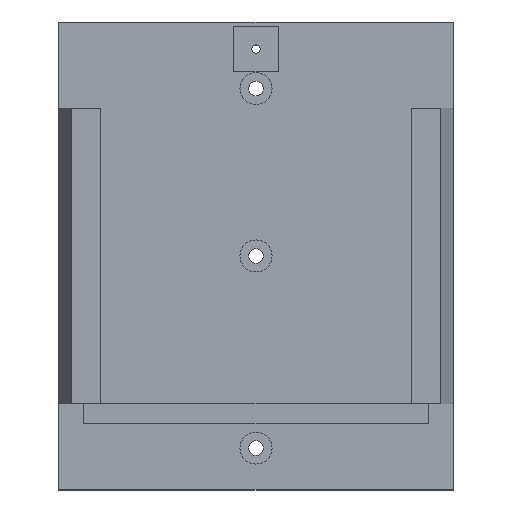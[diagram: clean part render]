
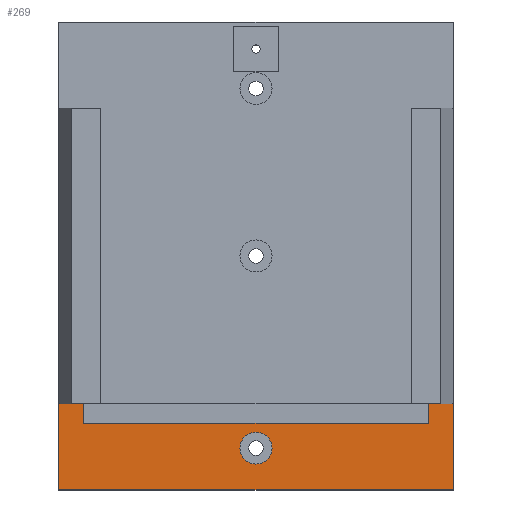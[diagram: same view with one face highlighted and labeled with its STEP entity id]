
A CAD part, top view. The second image highlights one B-rep face of the part: STEP entity #269.
In plain terms, the highlighted planar face has unit normal (0, 0, 1).
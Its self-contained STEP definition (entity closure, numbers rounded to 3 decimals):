
#24 = VERTEX_POINT('',#25);
#25 = CARTESIAN_POINT('',(-80.,-95.,-18.));
#32 = PLANE('',#33);
#33 = AXIS2_PLACEMENT_3D('',#34,#35,#36);
#34 = CARTESIAN_POINT('',(-80.,-95.,-30.));
#35 = DIRECTION('',(1.,0.,0.));
#36 = DIRECTION('',(0.,0.,1.));
#44 = PLANE('',#45);
#45 = AXIS2_PLACEMENT_3D('',#46,#47,#48);
#46 = CARTESIAN_POINT('',(-80.,-95.,-30.));
#47 = DIRECTION('',(0.,1.,0.));
#48 = DIRECTION('',(0.,0.,1.));
#141 = VERTEX_POINT('',#142);
#142 = CARTESIAN_POINT('',(-80.,-60.,-18.));
#168 = EDGE_CURVE('',#24,#141,#169,.T.);
#169 = SURFACE_CURVE('',#170,(#174,#181),.PCURVE_S1.);
#170 = LINE('',#171,#172);
#171 = CARTESIAN_POINT('',(-80.,-95.,-18.));
#172 = VECTOR('',#173,1.);
#173 = DIRECTION('',(0.,1.,0.));
#174 = PCURVE('',#32,#175);
#175 = DEFINITIONAL_REPRESENTATION('',(#176),#180);
#176 = LINE('',#177,#178);
#177 = CARTESIAN_POINT('',(12.,0.));
#178 = VECTOR('',#179,1.);
#179 = DIRECTION('',(0.,-1.));
#180 = ( GEOMETRIC_REPRESENTATION_CONTEXT(2) 
PARAMETRIC_REPRESENTATION_CONTEXT() REPRESENTATION_CONTEXT('2D SPACE',''
  ) );
#181 = PCURVE('',#182,#187);
#182 = PLANE('',#183);
#183 = AXIS2_PLACEMENT_3D('',#184,#185,#186);
#184 = CARTESIAN_POINT('',(-80.,-95.,-18.));
#185 = DIRECTION('',(0.,0.,1.));
#186 = DIRECTION('',(1.,0.,0.));
#187 = DEFINITIONAL_REPRESENTATION('',(#188),#192);
#188 = LINE('',#189,#190);
#189 = CARTESIAN_POINT('',(0.,0.));
#190 = VECTOR('',#191,1.);
#191 = DIRECTION('',(0.,1.));
#192 = ( GEOMETRIC_REPRESENTATION_CONTEXT(2) 
PARAMETRIC_REPRESENTATION_CONTEXT() REPRESENTATION_CONTEXT('2D SPACE',''
  ) );
#221 = EDGE_CURVE('',#24,#222,#224,.T.);
#222 = VERTEX_POINT('',#223);
#223 = CARTESIAN_POINT('',(80.,-95.,-18.));
#224 = SURFACE_CURVE('',#225,(#229,#236),.PCURVE_S1.);
#225 = LINE('',#226,#227);
#226 = CARTESIAN_POINT('',(-80.,-95.,-18.));
#227 = VECTOR('',#228,1.);
#228 = DIRECTION('',(1.,0.,0.));
#229 = PCURVE('',#44,#230);
#230 = DEFINITIONAL_REPRESENTATION('',(#231),#235);
#231 = LINE('',#232,#233);
#232 = CARTESIAN_POINT('',(12.,0.));
#233 = VECTOR('',#234,1.);
#234 = DIRECTION('',(0.,1.));
#235 = ( GEOMETRIC_REPRESENTATION_CONTEXT(2) 
PARAMETRIC_REPRESENTATION_CONTEXT() REPRESENTATION_CONTEXT('2D SPACE',''
  ) );
#236 = PCURVE('',#182,#237);
#237 = DEFINITIONAL_REPRESENTATION('',(#238),#242);
#238 = LINE('',#239,#240);
#239 = CARTESIAN_POINT('',(0.,0.));
#240 = VECTOR('',#241,1.);
#241 = DIRECTION('',(1.,0.));
#242 = ( GEOMETRIC_REPRESENTATION_CONTEXT(2) 
PARAMETRIC_REPRESENTATION_CONTEXT() REPRESENTATION_CONTEXT('2D SPACE',''
  ) );
#258 = PLANE('',#259);
#259 = AXIS2_PLACEMENT_3D('',#260,#261,#262);
#260 = CARTESIAN_POINT('',(80.,-95.,-30.));
#261 = DIRECTION('',(1.,0.,0.));
#262 = DIRECTION('',(0.,0.,1.));
#269 = ADVANCED_FACE('',(#270,#435),#182,.T.);
#270 = FACE_BOUND('',#271,.T.);
#271 = EDGE_LOOP('',(#272,#273,#274,#297,#325,#353,#381,#409));
#272 = ORIENTED_EDGE('',*,*,#168,.F.);
#273 = ORIENTED_EDGE('',*,*,#221,.T.);
#274 = ORIENTED_EDGE('',*,*,#275,.T.);
#275 = EDGE_CURVE('',#222,#276,#278,.T.);
#276 = VERTEX_POINT('',#277);
#277 = CARTESIAN_POINT('',(80.,-60.,-18.));
#278 = SURFACE_CURVE('',#279,(#283,#290),.PCURVE_S1.);
#279 = LINE('',#280,#281);
#280 = CARTESIAN_POINT('',(80.,-95.,-18.));
#281 = VECTOR('',#282,1.);
#282 = DIRECTION('',(0.,1.,0.));
#283 = PCURVE('',#182,#284);
#284 = DEFINITIONAL_REPRESENTATION('',(#285),#289);
#285 = LINE('',#286,#287);
#286 = CARTESIAN_POINT('',(160.,0.));
#287 = VECTOR('',#288,1.);
#288 = DIRECTION('',(0.,1.));
#289 = ( GEOMETRIC_REPRESENTATION_CONTEXT(2) 
PARAMETRIC_REPRESENTATION_CONTEXT() REPRESENTATION_CONTEXT('2D SPACE',''
  ) );
#290 = PCURVE('',#258,#291);
#291 = DEFINITIONAL_REPRESENTATION('',(#292),#296);
#292 = LINE('',#293,#294);
#293 = CARTESIAN_POINT('',(12.,0.));
#294 = VECTOR('',#295,1.);
#295 = DIRECTION('',(0.,-1.));
#296 = ( GEOMETRIC_REPRESENTATION_CONTEXT(2) 
PARAMETRIC_REPRESENTATION_CONTEXT() REPRESENTATION_CONTEXT('2D SPACE',''
  ) );
#297 = ORIENTED_EDGE('',*,*,#298,.T.);
#298 = EDGE_CURVE('',#276,#299,#301,.T.);
#299 = VERTEX_POINT('',#300);
#300 = CARTESIAN_POINT('',(70.,-60.,-18.));
#301 = SURFACE_CURVE('',#302,(#306,#313),.PCURVE_S1.);
#302 = LINE('',#303,#304);
#303 = CARTESIAN_POINT('',(80.,-60.,-18.));
#304 = VECTOR('',#305,1.);
#305 = DIRECTION('',(-1.,0.,0.));
#306 = PCURVE('',#182,#307);
#307 = DEFINITIONAL_REPRESENTATION('',(#308),#312);
#308 = LINE('',#309,#310);
#309 = CARTESIAN_POINT('',(160.,35.));
#310 = VECTOR('',#311,1.);
#311 = DIRECTION('',(-1.,0.));
#312 = ( GEOMETRIC_REPRESENTATION_CONTEXT(2) 
PARAMETRIC_REPRESENTATION_CONTEXT() REPRESENTATION_CONTEXT('2D SPACE',''
  ) );
#313 = PCURVE('',#314,#319);
#314 = PLANE('',#315);
#315 = AXIS2_PLACEMENT_3D('',#316,#317,#318);
#316 = CARTESIAN_POINT('',(68.,-60.,-18.));
#317 = DIRECTION('',(0.,1.,0.));
#318 = DIRECTION('',(0.,0.,1.));
#319 = DEFINITIONAL_REPRESENTATION('',(#320),#324);
#320 = LINE('',#321,#322);
#321 = CARTESIAN_POINT('',(0.,12.));
#322 = VECTOR('',#323,1.);
#323 = DIRECTION('',(0.,-1.));
#324 = ( GEOMETRIC_REPRESENTATION_CONTEXT(2) 
PARAMETRIC_REPRESENTATION_CONTEXT() REPRESENTATION_CONTEXT('2D SPACE',''
  ) );
#325 = ORIENTED_EDGE('',*,*,#326,.F.);
#326 = EDGE_CURVE('',#327,#299,#329,.T.);
#327 = VERTEX_POINT('',#328);
#328 = CARTESIAN_POINT('',(70.,-68.,-18.));
#329 = SURFACE_CURVE('',#330,(#334,#341),.PCURVE_S1.);
#330 = LINE('',#331,#332);
#331 = CARTESIAN_POINT('',(70.,-68.,-18.));
#332 = VECTOR('',#333,1.);
#333 = DIRECTION('',(0.,1.,0.));
#334 = PCURVE('',#182,#335);
#335 = DEFINITIONAL_REPRESENTATION('',(#336),#340);
#336 = LINE('',#337,#338);
#337 = CARTESIAN_POINT('',(150.,27.));
#338 = VECTOR('',#339,1.);
#339 = DIRECTION('',(0.,1.));
#340 = ( GEOMETRIC_REPRESENTATION_CONTEXT(2) 
PARAMETRIC_REPRESENTATION_CONTEXT() REPRESENTATION_CONTEXT('2D SPACE',''
  ) );
#341 = PCURVE('',#342,#347);
#342 = PLANE('',#343);
#343 = AXIS2_PLACEMENT_3D('',#344,#345,#346);
#344 = CARTESIAN_POINT('',(70.,-68.,-18.));
#345 = DIRECTION('',(1.,0.,0.));
#346 = DIRECTION('',(0.,0.,1.));
#347 = DEFINITIONAL_REPRESENTATION('',(#348),#352);
#348 = LINE('',#349,#350);
#349 = CARTESIAN_POINT('',(0.,0.));
#350 = VECTOR('',#351,1.);
#351 = DIRECTION('',(0.,-1.));
#352 = ( GEOMETRIC_REPRESENTATION_CONTEXT(2) 
PARAMETRIC_REPRESENTATION_CONTEXT() REPRESENTATION_CONTEXT('2D SPACE',''
  ) );
#353 = ORIENTED_EDGE('',*,*,#354,.F.);
#354 = EDGE_CURVE('',#355,#327,#357,.T.);
#355 = VERTEX_POINT('',#356);
#356 = CARTESIAN_POINT('',(-70.,-68.,-18.));
#357 = SURFACE_CURVE('',#358,(#362,#369),.PCURVE_S1.);
#358 = LINE('',#359,#360);
#359 = CARTESIAN_POINT('',(-70.,-68.,-18.));
#360 = VECTOR('',#361,1.);
#361 = DIRECTION('',(1.,0.,0.));
#362 = PCURVE('',#182,#363);
#363 = DEFINITIONAL_REPRESENTATION('',(#364),#368);
#364 = LINE('',#365,#366);
#365 = CARTESIAN_POINT('',(10.,27.));
#366 = VECTOR('',#367,1.);
#367 = DIRECTION('',(1.,0.));
#368 = ( GEOMETRIC_REPRESENTATION_CONTEXT(2) 
PARAMETRIC_REPRESENTATION_CONTEXT() REPRESENTATION_CONTEXT('2D SPACE',''
  ) );
#369 = PCURVE('',#370,#375);
#370 = PLANE('',#371);
#371 = AXIS2_PLACEMENT_3D('',#372,#373,#374);
#372 = CARTESIAN_POINT('',(-70.,-68.,-18.));
#373 = DIRECTION('',(0.,1.,0.));
#374 = DIRECTION('',(0.,0.,1.));
#375 = DEFINITIONAL_REPRESENTATION('',(#376),#380);
#376 = LINE('',#377,#378);
#377 = CARTESIAN_POINT('',(0.,0.));
#378 = VECTOR('',#379,1.);
#379 = DIRECTION('',(0.,1.));
#380 = ( GEOMETRIC_REPRESENTATION_CONTEXT(2) 
PARAMETRIC_REPRESENTATION_CONTEXT() REPRESENTATION_CONTEXT('2D SPACE',''
  ) );
#381 = ORIENTED_EDGE('',*,*,#382,.T.);
#382 = EDGE_CURVE('',#355,#383,#385,.T.);
#383 = VERTEX_POINT('',#384);
#384 = CARTESIAN_POINT('',(-70.,-60.,-18.));
#385 = SURFACE_CURVE('',#386,(#390,#397),.PCURVE_S1.);
#386 = LINE('',#387,#388);
#387 = CARTESIAN_POINT('',(-70.,-68.,-18.));
#388 = VECTOR('',#389,1.);
#389 = DIRECTION('',(0.,1.,0.));
#390 = PCURVE('',#182,#391);
#391 = DEFINITIONAL_REPRESENTATION('',(#392),#396);
#392 = LINE('',#393,#394);
#393 = CARTESIAN_POINT('',(10.,27.));
#394 = VECTOR('',#395,1.);
#395 = DIRECTION('',(0.,1.));
#396 = ( GEOMETRIC_REPRESENTATION_CONTEXT(2) 
PARAMETRIC_REPRESENTATION_CONTEXT() REPRESENTATION_CONTEXT('2D SPACE',''
  ) );
#397 = PCURVE('',#398,#403);
#398 = PLANE('',#399);
#399 = AXIS2_PLACEMENT_3D('',#400,#401,#402);
#400 = CARTESIAN_POINT('',(-70.,-68.,-18.));
#401 = DIRECTION('',(1.,0.,0.));
#402 = DIRECTION('',(0.,0.,1.));
#403 = DEFINITIONAL_REPRESENTATION('',(#404),#408);
#404 = LINE('',#405,#406);
#405 = CARTESIAN_POINT('',(0.,0.));
#406 = VECTOR('',#407,1.);
#407 = DIRECTION('',(0.,-1.));
#408 = ( GEOMETRIC_REPRESENTATION_CONTEXT(2) 
PARAMETRIC_REPRESENTATION_CONTEXT() REPRESENTATION_CONTEXT('2D SPACE',''
  ) );
#409 = ORIENTED_EDGE('',*,*,#410,.T.);
#410 = EDGE_CURVE('',#383,#141,#411,.T.);
#411 = SURFACE_CURVE('',#412,(#416,#423),.PCURVE_S1.);
#412 = LINE('',#413,#414);
#413 = CARTESIAN_POINT('',(-68.,-60.,-18.));
#414 = VECTOR('',#415,1.);
#415 = DIRECTION('',(-1.,0.,0.));
#416 = PCURVE('',#182,#417);
#417 = DEFINITIONAL_REPRESENTATION('',(#418),#422);
#418 = LINE('',#419,#420);
#419 = CARTESIAN_POINT('',(12.,35.));
#420 = VECTOR('',#421,1.);
#421 = DIRECTION('',(-1.,0.));
#422 = ( GEOMETRIC_REPRESENTATION_CONTEXT(2) 
PARAMETRIC_REPRESENTATION_CONTEXT() REPRESENTATION_CONTEXT('2D SPACE',''
  ) );
#423 = PCURVE('',#424,#429);
#424 = PLANE('',#425);
#425 = AXIS2_PLACEMENT_3D('',#426,#427,#428);
#426 = CARTESIAN_POINT('',(-76.453,-60.,-11.547));
#427 = DIRECTION('',(0.,1.,0.));
#428 = DIRECTION('',(0.,-0.,1.));
#429 = DEFINITIONAL_REPRESENTATION('',(#430),#434);
#430 = LINE('',#431,#432);
#431 = CARTESIAN_POINT('',(-6.453,8.453));
#432 = VECTOR('',#433,1.);
#433 = DIRECTION('',(0.,-1.));
#434 = ( GEOMETRIC_REPRESENTATION_CONTEXT(2) 
PARAMETRIC_REPRESENTATION_CONTEXT() REPRESENTATION_CONTEXT('2D SPACE',''
  ) );
#435 = FACE_BOUND('',#436,.T.);
#436 = EDGE_LOOP('',(#437));
#437 = ORIENTED_EDGE('',*,*,#438,.F.);
#438 = EDGE_CURVE('',#439,#439,#441,.T.);
#439 = VERTEX_POINT('',#440);
#440 = CARTESIAN_POINT('',(6.5,-78.,-18.));
#441 = SURFACE_CURVE('',#442,(#447,#454),.PCURVE_S1.);
#442 = CIRCLE('',#443,6.5);
#443 = AXIS2_PLACEMENT_3D('',#444,#445,#446);
#444 = CARTESIAN_POINT('',(0.,-78.,-18.));
#445 = DIRECTION('',(0.,0.,1.));
#446 = DIRECTION('',(1.,0.,0.));
#447 = PCURVE('',#182,#448);
#448 = DEFINITIONAL_REPRESENTATION('',(#449),#453);
#449 = CIRCLE('',#450,6.5);
#450 = AXIS2_PLACEMENT_2D('',#451,#452);
#451 = CARTESIAN_POINT('',(80.,17.));
#452 = DIRECTION('',(1.,0.));
#453 = ( GEOMETRIC_REPRESENTATION_CONTEXT(2) 
PARAMETRIC_REPRESENTATION_CONTEXT() REPRESENTATION_CONTEXT('2D SPACE',''
  ) );
#454 = PCURVE('',#455,#460);
#455 = CYLINDRICAL_SURFACE('',#456,6.5);
#456 = AXIS2_PLACEMENT_3D('',#457,#458,#459);
#457 = CARTESIAN_POINT('',(0.,-78.,-21.));
#458 = DIRECTION('',(-0.,-0.,-1.));
#459 = DIRECTION('',(1.,0.,0.));
#460 = DEFINITIONAL_REPRESENTATION('',(#461),#465);
#461 = LINE('',#462,#463);
#462 = CARTESIAN_POINT('',(-0.,-3.));
#463 = VECTOR('',#464,1.);
#464 = DIRECTION('',(-1.,0.));
#465 = ( GEOMETRIC_REPRESENTATION_CONTEXT(2) 
PARAMETRIC_REPRESENTATION_CONTEXT() REPRESENTATION_CONTEXT('2D SPACE',''
  ) );
